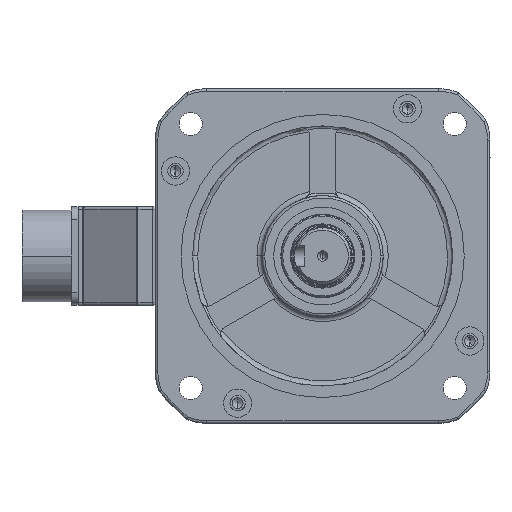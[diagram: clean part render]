
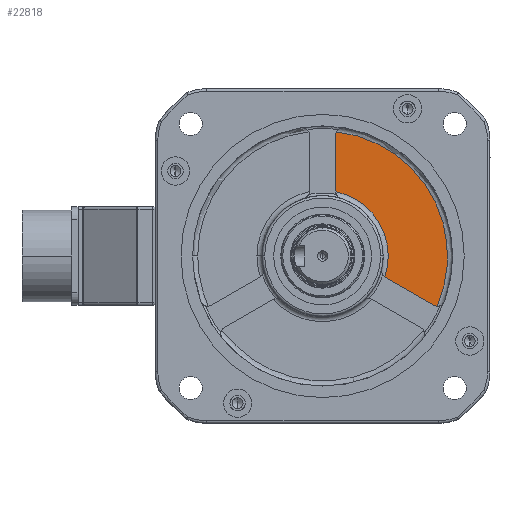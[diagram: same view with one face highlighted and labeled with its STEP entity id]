
A CAD part, left-side view. The second image highlights one B-rep face of the part: STEP entity #22818.
In plain terms, the highlighted planar face has unit normal (-1, 0, 0) as drawn and (0, 0, 1) by its records, which use the part's own axes.
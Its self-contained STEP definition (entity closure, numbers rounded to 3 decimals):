
#2757 = AXIS2_PLACEMENT_3D ( 'NONE', #31860, #38702, #45117 ) ;
#5858 = CARTESIAN_POINT ( 'NONE',  ( 0., 0., 0.5 ) ) ;
#7150 = DIRECTION ( 'NONE',  ( 1., 0., 0. ) ) ;
#7618 = CARTESIAN_POINT ( 'NONE',  ( 0., 0., 0.5 ) ) ;
#11143 = CIRCLE ( 'NONE', #62973, 48.5 ) ;
#11337 = DIRECTION ( 'NONE',  ( 1., 0., 0. ) ) ;
#12531 = DIRECTION ( 'NONE',  ( -0.866, 0.5, 0. ) ) ;
#14462 = AXIS2_PLACEMENT_3D ( 'NONE', #7618, #38818, #64455 ) ;
#14653 = CARTESIAN_POINT ( 'NONE',  ( -24.379, 8.302, 0.5 ) ) ;
#14816 = VERTEX_POINT ( 'NONE', #31140 ) ;
#15078 = CIRCLE ( 'NONE', #2757, 3. ) ;
#16915 = DIRECTION ( 'NONE',  ( 0., 0., 1. ) ) ;
#18248 = ORIENTED_EDGE ( 'NONE', *, *, #84149, .F. ) ;
#18323 = CARTESIAN_POINT ( 'NONE',  ( -5., 0., 0.5 ) ) ;
#18440 = CARTESIAN_POINT ( 'NONE',  ( -24.159, 8.161, 0.5 ) ) ;
#19041 = VERTEX_POINT ( 'NONE', #74611 ) ;
#22818 = ADVANCED_FACE ( 'NONE', ( #40083 ), #46074, .T. ) ;
#23892 = LINE ( 'NONE', #18323, #43386 ) ;
#24926 = LINE ( 'NONE', #52258, #78717 ) ;
#25098 = DIRECTION ( 'NONE',  ( 0., 0., 1. ) ) ;
#25156 = DIRECTION ( 'NONE',  ( 0., -1., 0. ) ) ;
#25568 = EDGE_CURVE ( 'NONE', #73394, #37777, #47581, .T. ) ;
#28070 = EDGE_CURVE ( 'NONE', #19041, #14816, #34099, .T. ) ;
#28490 = CARTESIAN_POINT ( 'NONE',  ( -25.879, 5.704, 0.5 ) ) ;
#29982 = ORIENTED_EDGE ( 'NONE', *, *, #28070, .T. ) ;
#31140 = CARTESIAN_POINT ( 'NONE',  ( -44.416, 19.48, 0.5 ) ) ;
#31860 = CARTESIAN_POINT ( 'NONE',  ( -8., -46.821, 0.5 ) ) ;
#32049 = CIRCLE ( 'NONE', #64801, 3. ) ;
#34099 = CIRCLE ( 'NONE', #47696, 3. ) ;
#37777 = VERTEX_POINT ( 'NONE', #18440 ) ;
#38702 = DIRECTION ( 'NONE',  ( 0., 0., 1. ) ) ;
#38818 = DIRECTION ( 'NONE',  ( 0., 0., 1. ) ) ;
#40083 = FACE_OUTER_BOUND ( 'NONE', #58850, .T. ) ;
#42509 = ORIENTED_EDGE ( 'NONE', *, *, #69485, .T. ) ;
#43386 = VECTOR ( 'NONE', #25156, 1000. ) ;
#43693 = VERTEX_POINT ( 'NONE', #69040 ) ;
#45117 = DIRECTION ( 'NONE',  ( 1., 0., 0. ) ) ;
#45580 = DIRECTION ( 'NONE',  ( 0., 0., -1. ) ) ;
#46074 = PLANE ( 'NONE',  #14462 ) ;
#47276 = VERTEX_POINT ( 'NONE', #48392 ) ;
#47492 = ORIENTED_EDGE ( 'NONE', *, *, #66794, .T. ) ;
#47581 = CIRCLE ( 'NONE', #69197, 25.5 ) ;
#47696 = AXIS2_PLACEMENT_3D ( 'NONE', #83615, #25098, #51137 ) ;
#48392 = CARTESIAN_POINT ( 'NONE',  ( -5., -46.821, 0.5 ) ) ;
#48526 = CARTESIAN_POINT ( 'NONE',  ( -8., -25.264, 0.5 ) ) ;
#49330 = EDGE_CURVE ( 'NONE', #65576, #19041, #24926, .T. ) ;
#50849 = ORIENTED_EDGE ( 'NONE', *, *, #82303, .T. ) ;
#51137 = DIRECTION ( 'NONE',  ( 1., 0., 0. ) ) ;
#51215 = ORIENTED_EDGE ( 'NONE', *, *, #25568, .T. ) ;
#52054 = CIRCLE ( 'NONE', #53405, 3. ) ;
#52245 = ORIENTED_EDGE ( 'NONE', *, *, #49330, .T. ) ;
#52258 = CARTESIAN_POINT ( 'NONE',  ( -2.5, -4.33, 0.5 ) ) ;
#52355 = CARTESIAN_POINT ( 'NONE',  ( -5.011, -25.003, 0.5 ) ) ;
#53405 = AXIS2_PLACEMENT_3D ( 'NONE', #48526, #16915, #11337 ) ;
#58850 = EDGE_LOOP ( 'NONE', ( #68676, #51215, #42509, #52245, #29982, #47492, #50849, #18248 ) ) ;
#60375 = DIRECTION ( 'NONE',  ( 0., 0., 1. ) ) ;
#62973 = AXIS2_PLACEMENT_3D ( 'NONE', #5858, #60375, #64789 ) ;
#64455 = DIRECTION ( 'NONE',  ( 1., 0., 0. ) ) ;
#64789 = DIRECTION ( 'NONE',  ( 1., 0., 0. ) ) ;
#64801 = AXIS2_PLACEMENT_3D ( 'NONE', #28490, #68199, #74181 ) ;
#64803 = CARTESIAN_POINT ( 'NONE',  ( 0., 0., 0.5 ) ) ;
#65576 = VERTEX_POINT ( 'NONE', #14653 ) ;
#66794 = EDGE_CURVE ( 'NONE', #14816, #43693, #11143, .T. ) ;
#67204 = CARTESIAN_POINT ( 'NONE',  ( -5., -25.264, 0.5 ) ) ;
#68199 = DIRECTION ( 'NONE',  ( 0., 0., 1. ) ) ;
#68676 = ORIENTED_EDGE ( 'NONE', *, *, #71984, .T. ) ;
#69040 = CARTESIAN_POINT ( 'NONE',  ( -5.338, -48.205, 0.5 ) ) ;
#69197 = AXIS2_PLACEMENT_3D ( 'NONE', #64803, #45580, #7150 ) ;
#69485 = EDGE_CURVE ( 'NONE', #37777, #65576, #32049, .T. ) ;
#71984 = EDGE_CURVE ( 'NONE', #76543, #73394, #52054, .T. ) ;
#73394 = VERTEX_POINT ( 'NONE', #52355 ) ;
#74181 = DIRECTION ( 'NONE',  ( 1., 0., 0. ) ) ;
#74611 = CARTESIAN_POINT ( 'NONE',  ( -43.049, 19.081, 0.5 ) ) ;
#76543 = VERTEX_POINT ( 'NONE', #67204 ) ;
#78717 = VECTOR ( 'NONE', #12531, 1000. ) ;
#82303 = EDGE_CURVE ( 'NONE', #43693, #47276, #15078, .T. ) ;
#83615 = CARTESIAN_POINT ( 'NONE',  ( -44.549, 16.483, 0.5 ) ) ;
#84149 = EDGE_CURVE ( 'NONE', #76543, #47276, #23892, .T. ) ;
